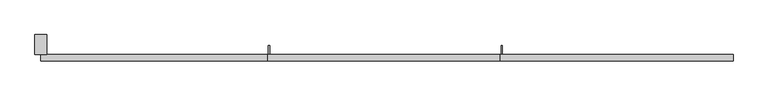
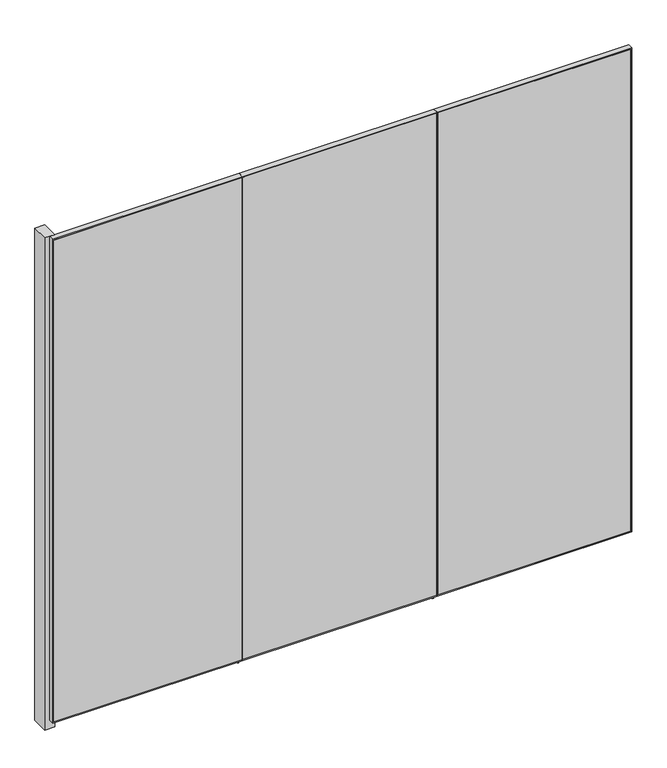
"""IFC4 building model written with IfcOpenShell, lengths in millimetres: furniture geometry, H103 Reja 3 módulos : H103.1 Reja 3 módulos 345x315."""

from ifc_helpers import new_model, si_unit, frame, origin, origin_with_axes, place, context, project, spatial, polyline, outline, extrude, source, transform, mapped, element, save


def furniture_c8fff0bf(model_context):
    return source(origin(), model_context, "Body", "SweptSolid", [
        extrude(outline(polyline([(-2225.2996736, -468.0), (-2225.2996736, -568.0), (-2285.2996736, -568.0), (-2285.2996736, -468.0), (-2225.2996736, -468.0)])), origin_with_axes(), (0.0, 0.0, 1.0), 3100.0),
        extrude(outline(polyline([(1187.7003264, -600.0), (38.2003264, -600.0), (38.2003264, -597.0), (1187.7003264, -597.0), (1187.7003264, -600.0)])), frame((0.0, 0.0, 57.0), z_axis=(0.0, 0.0, 1.0), x_axis=(1.0, 0.0, 0.0)), (0.0, 0.0, 1.0), 3036.0),
        extrude(outline(polyline([(3100.0, 1194.7003264), (3100.0, 34.7003264), (50.0, 34.7003264), (50.0, 1194.7003264), (3100.0, 1194.7003264)]), holes=[polyline([(3093.0, 1187.7003264), (57.0, 1187.7003264), (57.0, 38.2003264), (3093.0, 38.2003264), (3093.0, 1187.7003264)])]), frame((0.0, -600.0, 0.0), z_axis=(0.0, 1.0, 0.0), x_axis=(0.0, 0.0, 1.0)), (0.0, 0.0, 1.0), 32.0),
        extrude(outline(polyline([(31.2003264, -600.0), (-1121.7996736, -600.0), (-1121.7996736, -597.0), (31.2003264, -597.0), (31.2003264, -600.0)])), frame((0.0, 0.0, 57.0), z_axis=(0.0, 0.0, 1.0), x_axis=(1.0, 0.0, 0.0)), (0.0, 0.0, 1.0), 3036.0),
        extrude(outline(polyline([(3100.0, 34.7003264), (3100.0, -1125.2996736), (50.0, -1125.2996736), (50.0, 34.7003264), (3100.0, 34.7003264)]), holes=[polyline([(3093.0, 31.2003264), (57.0, 31.2003264), (57.0, -1121.7996736), (3093.0, -1121.7996736), (3093.0, 31.2003264)])]), frame((0.0, -600.0, 0.0), z_axis=(0.0, 1.0, 0.0), x_axis=(0.0, 0.0, 1.0)), (0.0, 0.0, 1.0), 32.0),
        extrude(outline(polyline([(-1128.7996736, -600.0), (-2248.2996736, -600.0), (-2248.2996736, -597.0), (-1128.7996736, -597.0), (-1128.7996736, -600.0)])), frame((0.0, 0.0, 57.0), z_axis=(0.0, 0.0, 1.0), x_axis=(1.0, 0.0, 0.0)), (0.0, 0.0, 1.0), 3036.0),
        extrude(outline(polyline([(3100.0, -1125.2996736), (3100.0, -2255.2996736), (50.0, -2255.2996736), (50.0, -1125.2996736), (3100.0, -1125.2996736)]), holes=[polyline([(3093.0, -1128.7996736), (57.0, -1128.7996736), (57.0, -2248.2996736), (3093.0, -2248.2996736), (3093.0, -1128.7996736)])]), frame((0.0, -600.0, 0.0), z_axis=(0.0, 1.0, 0.0), x_axis=(0.0, 0.0, 1.0)), (0.0, 0.0, 1.0), 32.0),
        extrude(outline(polyline([(-522.0, 82.0), (-522.0, 0.0), (-547.0, 0.0), (-547.0, 57.0), (-597.0, 57.0), (-597.0, 82.0), (-522.0, 82.0)])), frame((38.2003264, 0.0, 0.0), z_axis=(1.0, 0.0, 0.0), x_axis=(0.0, 1.0, 0.0)), (0.0, 0.0, 1.0), 7.0),
        extrude(outline(polyline([(-522.0, 82.0), (-522.0, 0.0), (-547.0, 0.0), (-547.0, 57.0), (-597.0, 57.0), (-597.0, 82.0), (-522.0, 82.0)])), frame((-1121.7996736, 0.0, 0.0), z_axis=(1.0, 0.0, 0.0), x_axis=(0.0, 1.0, 0.0)), (0.0, 0.0, 1.0), 7.0),
    ])


if __name__ == "__main__":
    model = new_model("IFC4")
    model_context = context("Model", 3, world=origin())
    ifc_project = project(units=[si_unit("LENGTHUNIT", "METRE", prefix="MILLI")], contexts=[model_context])
    site = spatial("IfcSite", under=ifc_project)
    building = spatial("IfcBuilding", under=site)
    placement = place(None, origin())
    furniture_shape = furniture_c8fff0bf(model_context)
    element("IfcFurniture", 1, ObjectType="H103 Reja 3 módulos : H103.1 Reja 3 módulos 345x315", at=placement, inside=building, context=model_context, shape_type="MappedRepresentation", body=[
        mapped(furniture_shape, transform((0.0, 0.0, 0.0), x_axis=(1.0, 0.0, 0.0), y_axis=(0.0, 1.0, 0.0), z_axis=(0.0, 0.0, 1.0))),
    ])
    save(model, "model.ifc")
